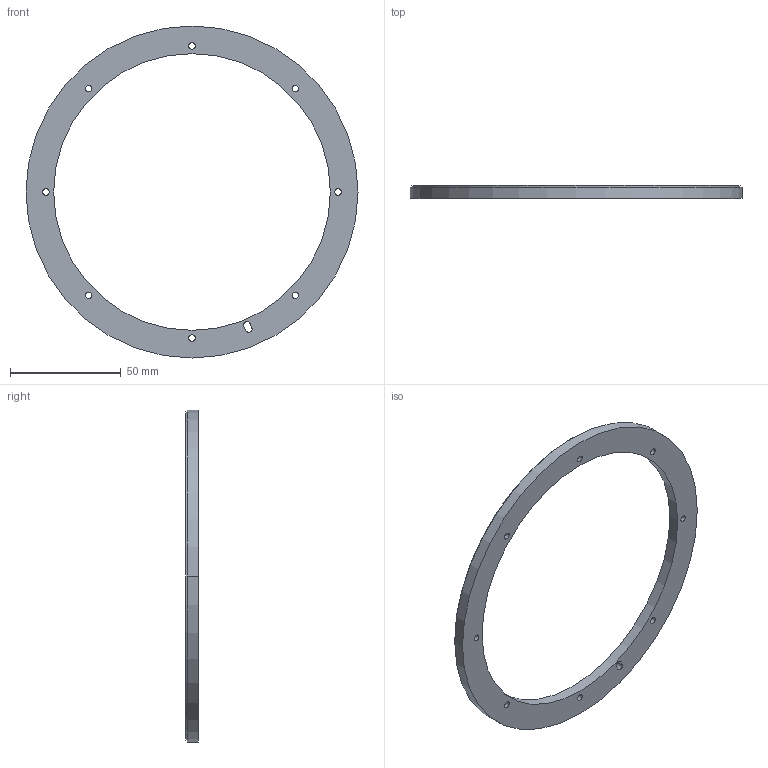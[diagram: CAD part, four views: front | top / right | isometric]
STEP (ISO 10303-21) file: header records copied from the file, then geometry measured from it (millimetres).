
FILE_DESCRIPTION (( 'STEP AP214' ), '1' );
FILE_NAME ('MRA150JF125BMH00D02_00.STEP', '2022-12-01T13:06:47', ( '' ), ( '' ), 'SwSTEP 2.0', 'SolidWorks 2020', '' );
FILE_SCHEMA (( 'AUTOMOTIVE_DESIGN' ));
Length unit declared in the file: millimetre
Products named in the file (1): MRA150JF125BMH00D02_00
Bounding box: 150 x 5.8 x 150 mm (x, y, z)
Volume: 28036.8 mm3; surface area: 20751.5 mm2
Topology: 2 solids, 2 shells, 450 faces, 1191 edges, 794 vertices
Faces by surface type: plane 248, bspline 148, cylinder 54
Entity records: 25724 total; most frequent: CARTESIAN_POINT 10416, ORIENTED_EDGE 2382, DIRECTION 1609, EDGE_CURVE 1191, VERTEX_POINT 794, VECTOR 787, LINE 787, EDGE_LOOP 521
